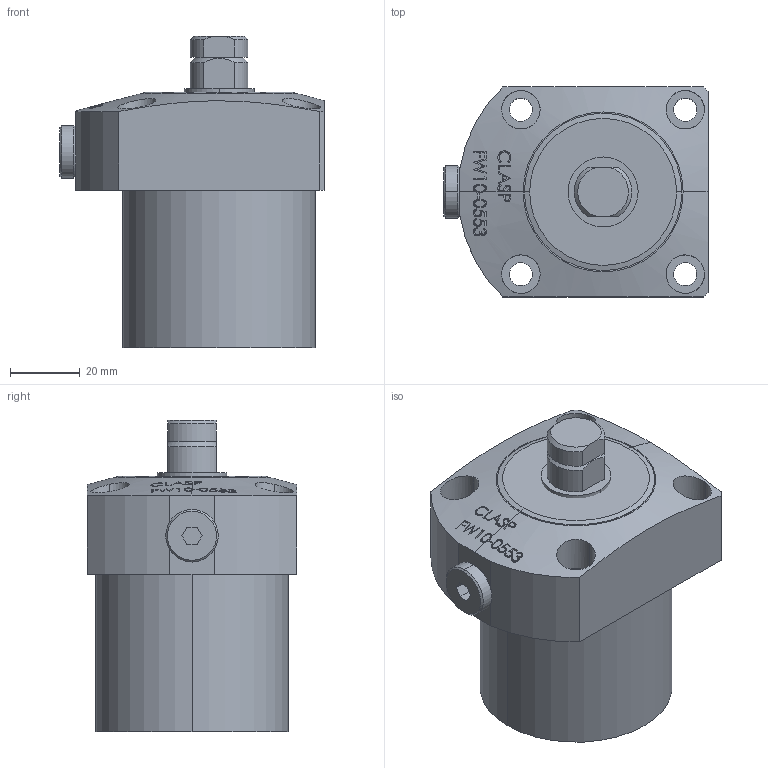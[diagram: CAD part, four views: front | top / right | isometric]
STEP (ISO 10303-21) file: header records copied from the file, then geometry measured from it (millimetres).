
FILE_DESCRIPTION (( 'STEP AP203' ), '1' );
FILE_NAME ('FW10-0553 Work support.STEP', '2022-07-09T17:12:20', ( '' ), ( '' ), 'SwSTEP 2.0', 'SolidWorks 2017', '' );
FILE_SCHEMA (( 'CONFIG_CONTROL_DESIGN' ));
Length unit declared in the file: millimetre
Products named in the file (4): FW10-0553-part-2; FW10-0553-part-3; FW10-0553 Work support; FW10-0553
Assembly tree (3 placements, depth 2):
  FW10-0553 Work support
    FW10-0553
    FW10-0553-part-2
    FW10-0553-part-3
Bounding box: 75.5 x 60 x 89 mm (x, y, z)
Volume: 226806.4 mm3; surface area: 30329.8 mm2
Topology: 3 solids, 3 shells, 264 faces, 679 edges, 447 vertices
Faces by surface type: plane 122, bspline 80, cylinder 40, cone 22
Entity records: 13085 total; most frequent: CARTESIAN_POINT 6916, ORIENTED_EDGE 1354, DIRECTION 878, EDGE_CURVE 677, VERTEX_POINT 447, LINE 326, VECTOR 326, EDGE_LOOP 302
